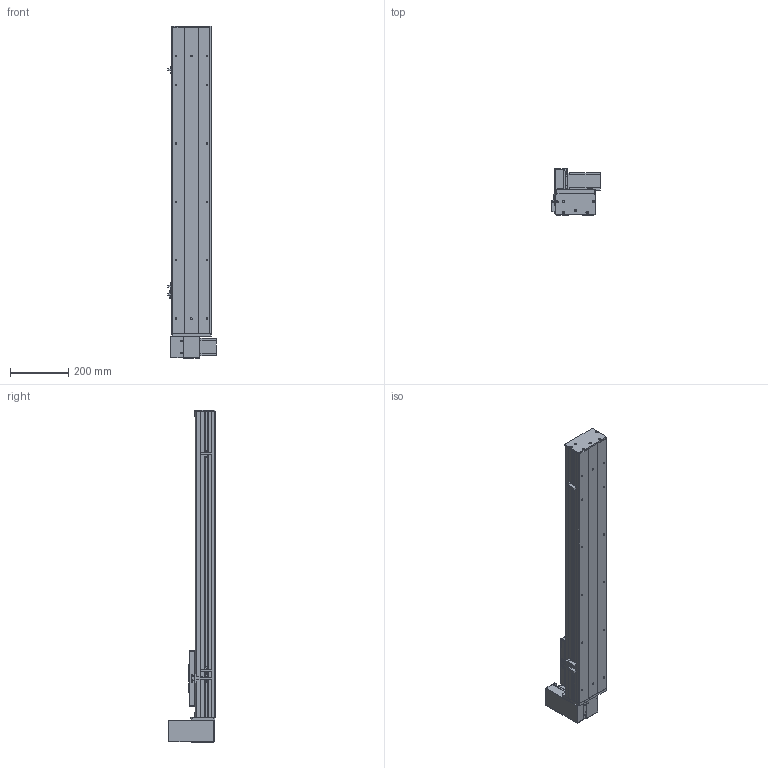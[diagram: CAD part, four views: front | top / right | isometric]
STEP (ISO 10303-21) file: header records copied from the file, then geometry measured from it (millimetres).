
FILE_DESCRIPTION (( 'STEP AP203' ), '1' );
FILE_NAME ('Y135CB-D90-S750-UR-P400W.STEP', '2020-02-18T03:59:11', ( '微软用户' ), ( '微软中国' ), 'SwSTEP 2.0', 'SolidWorks 2017', '' );
FILE_SCHEMA (( 'CONFIG_CONTROL_DESIGN' ));
Length unit declared in the file: millimetre
Products named in the file (18): Y10B-耜蚾蟀諉啣----; 5CB --掛极耜裔啣-; 00B-俋欶BM--; C-詩湍揤踡え-陔; Y135CB-耜裔; Y135CB-D90-S750-UR-P400W; 135CB--詩湍-CE; 135CB---遴掛极.-; Y100-135俋离換覜ん--; 35CB---喘謫眊楊擘啣; Y135C-陔俋离換覜結え-; 0B-埴倛裔啣; 5C--俋欶; 0B-源倛裔啣; C-雄赽釱--; 0B-萇儂楊擘啣; Y10B--々湍喘謫眊--666; san松下电机400不带刹车----
Assembly tree (21 placements, depth 2):
  Y135CB-D90-S750-UR-P400W
    Y135CB-耜裔
    135CB---遴掛极.-
    35CB---喘謫眊楊擘啣
    0B-埴倛裔啣
    0B-源倛裔啣
    0B-萇儂楊擘啣
    san松下电机400不带刹车----
    5CB --掛极耜裔啣-  x2
    C-詩湍揤踡え-陔  x2
    135CB--詩湍-CE
    Y100-135俋离換覜ん--  x3
    Y135C-陔俋离換覜結え-
    5C--俋欶
    C-雄赽釱--
    Y10B--々湍喘謫眊--666
    Y10B-耜蚾蟀諉啣----
    00B-俋欶BM--
Bounding box: 167.5 x 158.7 x 1138 mm (x, y, z)
Volume: 3737167.9 mm3; surface area: 1455615.3 mm2
Topology: 21 solids, 21 shells, 941 faces, 2509 edges, 1662 vertices
Faces by surface type: cylinder 469, plane 456, cone 16
Entity records: 29147 total; most frequent: DIRECTION 4841, CARTESIAN_POINT 4768, ORIENTED_EDGE 4494, EDGE_CURVE 2247, AXIS2_PLACEMENT_3D 1763, VERTEX_POINT 1490, VECTOR 1315, LINE 1315
